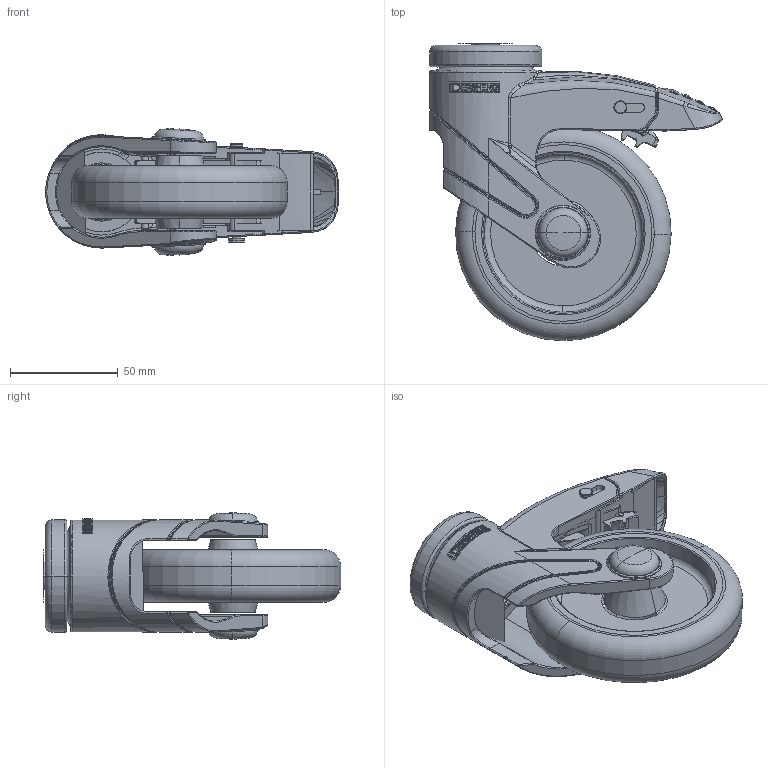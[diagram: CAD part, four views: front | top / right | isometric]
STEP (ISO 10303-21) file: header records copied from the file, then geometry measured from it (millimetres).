
FILE_DESCRIPTION((''),'2;1');
FILE_NAME('PRT0041','2025-08-18T13:18:29',('Administrator'),(''),'CREO PARAMETRIC BY PTC INC, 2022124','CREO PARAMETRIC BY PTC INC, 2022124','');
FILE_SCHEMA(('AUTOMOTIVE_DESIGN { 1 0 10303 214 1 1 1 1 }'));
Products named in the file (1): PRT0041
Bounding box: 135.73 x 137.99 x 58.65 mm (x, y, z)
Surface area: 72310.9 mm2 (no closed solid volume)
Topology: 0 solids, 40 shells, 676 faces, 2587 edges, 1869 vertices
Faces by surface type: bspline 251, cylinder 200, plane 113, torus 82, cone 20, sphere 8, extrusion 2
Entity records: 49645 total; most frequent: CARTESIAN_POINT 25886, ORIENTED_EDGE 3790, DIRECTION 3395, EDGE_CURVE 2573, VERTEX_POINT 1869, AXIS2_PLACEMENT_3D 1363, B_SPLINE_CURVE_WITH_KNOTS 981, CIRCLE 930
